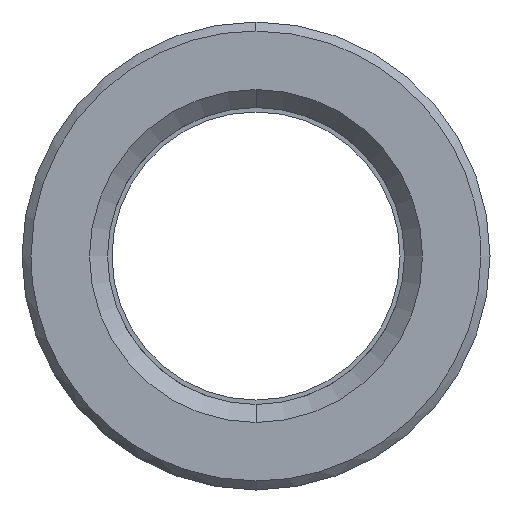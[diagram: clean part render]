
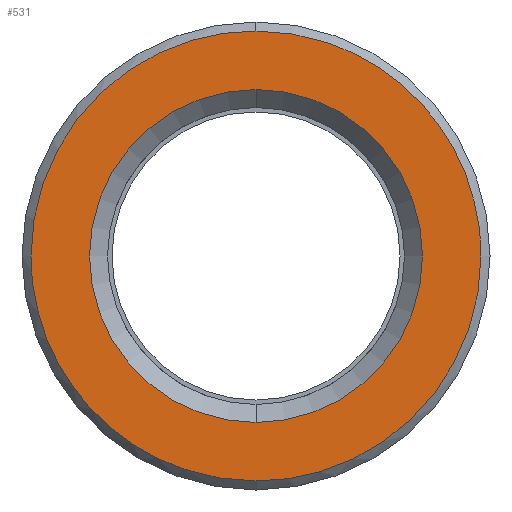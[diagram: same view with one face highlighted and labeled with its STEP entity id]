
A CAD part, left-side view. The second image highlights one B-rep face of the part: STEP entity #531.
In plain terms, the highlighted planar face has unit normal (-1, 0, 0).
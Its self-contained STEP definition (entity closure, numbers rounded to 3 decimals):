
#311=CARTESIAN_POINT('Axis2P3D Location',(0.,0.,0.)) ;
#315=CARTESIAN_POINT('Vertex',(0.,9.25,0.)) ;
#317=CARTESIAN_POINT('Vertex',(0.,0.,9.25)) ;
#320=CARTESIAN_POINT('Axis2P3D Location',(0.,0.,0.)) ;
#324=CARTESIAN_POINT('Vertex',(0.,0.,-9.25)) ;
#351=CARTESIAN_POINT('Axis2P3D Location',(0.,0.,0.)) ;
#355=CARTESIAN_POINT('Vertex',(0.,-9.25,0.)) ;
#358=CARTESIAN_POINT('Axis2P3D Location',(0.,0.,0.)) ;
#438=CARTESIAN_POINT('Axis2P3D Location',(0.,12.5,0.)) ;
#444=CARTESIAN_POINT('Control Point',(0.,0.,-12.5)) ;
#445=CARTESIAN_POINT('Control Point',(0.,0.923,-12.5)) ;
#446=CARTESIAN_POINT('Control Point',(0.,1.846,-12.415)) ;
#447=CARTESIAN_POINT('Control Point',(0.,2.758,-12.245)) ;
#448=CARTESIAN_POINT('Control Point',(0.,4.82,-11.658)) ;
#449=CARTESIAN_POINT('Control Point',(0.,6.718,-10.646)) ;
#450=CARTESIAN_POINT('Control Point',(0.,7.721,-9.943)) ;
#451=CARTESIAN_POINT('Control Point',(0.,9.535,-8.308)) ;
#452=CARTESIAN_POINT('Control Point',(0.,10.907,-6.287)) ;
#453=CARTESIAN_POINT('Control Point',(0.,11.466,-5.197)) ;
#454=CARTESIAN_POINT('Control Point',(0.,12.089,-3.503)) ;
#455=CARTESIAN_POINT('Control Point',(0.,12.399,-1.736)) ;
#456=CARTESIAN_POINT('Control Point',(0.,12.466,-1.159)) ;
#457=CARTESIAN_POINT('Control Point',(0.,12.5,-0.579)) ;
#458=CARTESIAN_POINT('Control Point',(0.,12.5,0.)) ;
#459=CARTESIAN_POINT('Vertex',(0.,0.,-12.5)) ;
#461=CARTESIAN_POINT('Vertex',(0.,12.5,0.)) ;
#465=CARTESIAN_POINT('Control Point',(0.,-12.5,0.)) ;
#466=CARTESIAN_POINT('Control Point',(0.,-12.5,-1.212)) ;
#467=CARTESIAN_POINT('Control Point',(0.,-12.353,-2.425)) ;
#468=CARTESIAN_POINT('Control Point',(0.,-12.059,-3.614)) ;
#469=CARTESIAN_POINT('Control Point',(0.,-11.189,-5.896)) ;
#470=CARTESIAN_POINT('Control Point',(0.,-9.798,-7.904)) ;
#471=CARTESIAN_POINT('Control Point',(0.,-8.984,-8.819)) ;
#472=CARTESIAN_POINT('Control Point',(0.,-7.15,-10.432)) ;
#473=CARTESIAN_POINT('Control Point',(0.,-4.984,-11.56)) ;
#474=CARTESIAN_POINT('Control Point',(0.,-3.837,-11.99)) ;
#475=CARTESIAN_POINT('Control Point',(0.,-2.366,-12.344)) ;
#476=CARTESIAN_POINT('Control Point',(0.,-0.869,-12.475)) ;
#477=CARTESIAN_POINT('Control Point',(0.,-0.579,-12.492)) ;
#478=CARTESIAN_POINT('Control Point',(0.,-0.29,-12.5)) ;
#479=CARTESIAN_POINT('Control Point',(0.,0.,-12.5)) ;
#480=CARTESIAN_POINT('Vertex',(0.,-12.5,0.)) ;
#484=CARTESIAN_POINT('Control Point',(0.,0.,12.5)) ;
#485=CARTESIAN_POINT('Control Point',(0.,-0.923,12.5)) ;
#486=CARTESIAN_POINT('Control Point',(0.,-1.846,12.415)) ;
#487=CARTESIAN_POINT('Control Point',(0.,-2.758,12.245)) ;
#488=CARTESIAN_POINT('Control Point',(0.,-4.82,11.658)) ;
#489=CARTESIAN_POINT('Control Point',(0.,-6.718,10.646)) ;
#490=CARTESIAN_POINT('Control Point',(0.,-7.721,9.943)) ;
#491=CARTESIAN_POINT('Control Point',(0.,-9.535,8.308)) ;
#492=CARTESIAN_POINT('Control Point',(0.,-10.907,6.287)) ;
#493=CARTESIAN_POINT('Control Point',(0.,-11.466,5.197)) ;
#494=CARTESIAN_POINT('Control Point',(0.,-12.089,3.503)) ;
#495=CARTESIAN_POINT('Control Point',(0.,-12.399,1.736)) ;
#496=CARTESIAN_POINT('Control Point',(0.,-12.466,1.159)) ;
#497=CARTESIAN_POINT('Control Point',(0.,-12.5,0.579)) ;
#498=CARTESIAN_POINT('Control Point',(0.,-12.5,0.)) ;
#499=CARTESIAN_POINT('Vertex',(0.,0.,12.5)) ;
#503=CARTESIAN_POINT('Control Point',(0.,12.5,0.)) ;
#504=CARTESIAN_POINT('Control Point',(0.,12.5,1.212)) ;
#505=CARTESIAN_POINT('Control Point',(0.,12.353,2.425)) ;
#506=CARTESIAN_POINT('Control Point',(0.,12.059,3.614)) ;
#507=CARTESIAN_POINT('Control Point',(0.,11.189,5.896)) ;
#508=CARTESIAN_POINT('Control Point',(0.,9.798,7.904)) ;
#509=CARTESIAN_POINT('Control Point',(0.,8.984,8.819)) ;
#510=CARTESIAN_POINT('Control Point',(0.,7.15,10.432)) ;
#511=CARTESIAN_POINT('Control Point',(0.,4.984,11.56)) ;
#512=CARTESIAN_POINT('Control Point',(0.,3.837,11.99)) ;
#513=CARTESIAN_POINT('Control Point',(0.,2.366,12.344)) ;
#514=CARTESIAN_POINT('Control Point',(0.,0.869,12.475)) ;
#515=CARTESIAN_POINT('Control Point',(0.,0.579,12.492)) ;
#516=CARTESIAN_POINT('Control Point',(0.,0.29,12.5)) ;
#517=CARTESIAN_POINT('Control Point',(0.,0.,12.5)) ;
#312=DIRECTION('Axis2P3D Direction',(-1.,0.,0.)) ;
#321=DIRECTION('Axis2P3D Direction',(-1.,0.,0.)) ;
#352=DIRECTION('Axis2P3D Direction',(-1.,0.,0.)) ;
#359=DIRECTION('Axis2P3D Direction',(-1.,0.,0.)) ;
#439=DIRECTION('Axis2P3D Direction',(-1.,0.,0.)) ;
#440=DIRECTION('Axis2P3D XDirection',(0.,0.,1.)) ;
#313=AXIS2_PLACEMENT_3D('Circle Axis2P3D',#311,#312,$) ;
#322=AXIS2_PLACEMENT_3D('Circle Axis2P3D',#320,#321,$) ;
#353=AXIS2_PLACEMENT_3D('Circle Axis2P3D',#351,#352,$) ;
#360=AXIS2_PLACEMENT_3D('Circle Axis2P3D',#358,#359,$) ;
#441=AXIS2_PLACEMENT_3D('Plane Axis2P3D',#438,#439,#440) ;
#520=ORIENTED_EDGE('',*,*,#463,.F.) ;
#521=ORIENTED_EDGE('',*,*,#482,.F.) ;
#522=ORIENTED_EDGE('',*,*,#501,.F.) ;
#523=ORIENTED_EDGE('',*,*,#518,.F.) ;
#526=ORIENTED_EDGE('',*,*,#319,.T.) ;
#527=ORIENTED_EDGE('',*,*,#362,.T.) ;
#528=ORIENTED_EDGE('',*,*,#357,.T.) ;
#529=ORIENTED_EDGE('',*,*,#326,.T.) ;
#530=FACE_BOUND('',#525,.T.) ;
#531=ADVANCED_FACE('553-16X76',(#524,#530),#442,.T.) ;
#443=B_SPLINE_CURVE_WITH_KNOTS('',5,(#444,#445,#446,#447,#448,#449,#450,#451,#452,#453,#454,#455,#456,#457,#458),.UNSPECIFIED.,.F.,.U.,(6,3,3,3,6),(27.768,34.293,42.866,51.439,55.536),.UNSPECIFIED.) ;
#464=B_SPLINE_CURVE_WITH_KNOTS('',5,(#465,#466,#467,#468,#469,#470,#471,#472,#473,#474,#475,#476,#477,#478,#479),.UNSPECIFIED.,.F.,.U.,(6,3,3,3,6),(0.,8.573,17.146,25.719,27.768),.UNSPECIFIED.) ;
#483=B_SPLINE_CURVE_WITH_KNOTS('',5,(#484,#485,#486,#487,#488,#489,#490,#491,#492,#493,#494,#495,#496,#497,#498),.UNSPECIFIED.,.F.,.U.,(6,3,3,3,6),(27.768,34.293,42.866,51.439,55.536),.UNSPECIFIED.) ;
#502=B_SPLINE_CURVE_WITH_KNOTS('',5,(#503,#504,#505,#506,#507,#508,#509,#510,#511,#512,#513,#514,#515,#516,#517),.UNSPECIFIED.,.F.,.U.,(6,3,3,3,6),(0.,8.573,17.146,25.719,27.768),.UNSPECIFIED.) ;
#314=CIRCLE('generated circle',#313,9.25) ;
#323=CIRCLE('generated circle',#322,9.25) ;
#354=CIRCLE('generated circle',#353,9.25) ;
#361=CIRCLE('generated circle',#360,9.25) ;
#319=EDGE_CURVE('',#316,#318,#314,.F.) ;
#326=EDGE_CURVE('',#325,#316,#323,.F.) ;
#357=EDGE_CURVE('',#356,#325,#354,.F.) ;
#362=EDGE_CURVE('',#318,#356,#361,.F.) ;
#463=EDGE_CURVE('',#460,#462,#443,.T.) ;
#482=EDGE_CURVE('',#481,#460,#464,.T.) ;
#501=EDGE_CURVE('',#500,#481,#483,.T.) ;
#518=EDGE_CURVE('',#462,#500,#502,.T.) ;
#519=EDGE_LOOP('',(#520,#521,#522,#523)) ;
#525=EDGE_LOOP('',(#526,#527,#528,#529)) ;
#524=FACE_OUTER_BOUND('',#519,.T.) ;
#442=PLANE('Plane',#441) ;
#316=VERTEX_POINT('',#315) ;
#318=VERTEX_POINT('',#317) ;
#325=VERTEX_POINT('',#324) ;
#356=VERTEX_POINT('',#355) ;
#460=VERTEX_POINT('',#459) ;
#462=VERTEX_POINT('',#461) ;
#481=VERTEX_POINT('',#480) ;
#500=VERTEX_POINT('',#499) ;
